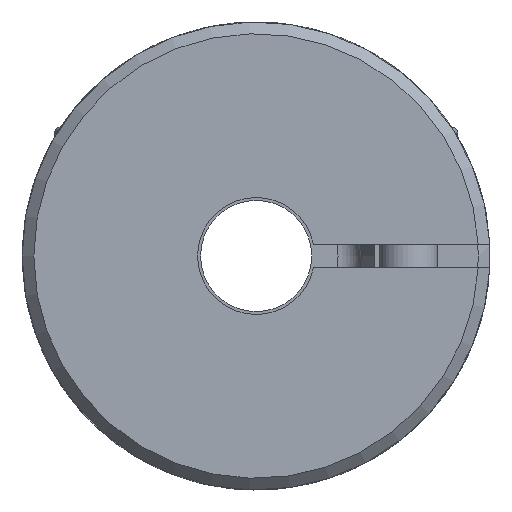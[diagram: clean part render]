
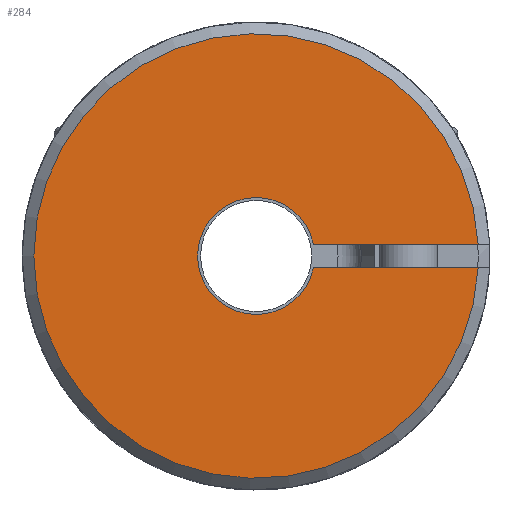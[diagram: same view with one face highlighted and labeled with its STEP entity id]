
A CAD part, left-side view. The second image highlights one B-rep face of the part: STEP entity #284.
In plain terms, the highlighted planar face has unit normal (-1, 0, 0).
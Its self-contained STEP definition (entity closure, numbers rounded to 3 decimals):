
#284 = ADVANCED_FACE( '', ( #740 ), #741, .T. );
#740 = FACE_OUTER_BOUND( '', #1419, .T. );
#741 = PLANE( '', #1420 );
#1419 = EDGE_LOOP( '', ( #2229, #2230, #2231, #2232 ) );
#1420 = AXIS2_PLACEMENT_3D( '', #2233, #2234, #2235 );
#2229 = ORIENTED_EDGE( '', *, *, #3913, .T. );
#2230 = ORIENTED_EDGE( '', *, *, #3914, .T. );
#2231 = ORIENTED_EDGE( '', *, *, #3915, .T. );
#2232 = ORIENTED_EDGE( '', *, *, #3916, .T. );
#2233 = CARTESIAN_POINT( '', ( 0., 3.05, 0. ) );
#2234 = DIRECTION( '', ( -1., 0., 0. ) );
#2235 = DIRECTION( '', ( 0., 0., 1. ) );
#3913 = EDGE_CURVE( '', #4709, #4710, #4711, .T. );
#3914 = EDGE_CURVE( '', #4710, #4712, #4713, .T. );
#3915 = EDGE_CURVE( '', #4712, #4714, #4715, .T. );
#3916 = EDGE_CURVE( '', #4714, #4709, #4716, .T. );
#4709 = VERTEX_POINT( '', #6092 );
#4710 = VERTEX_POINT( '', #6093 );
#4711 = LINE( '', #6094, #6095 );
#4712 = VERTEX_POINT( '', #6096 );
#4713 = CIRCLE( '', #6097, 5. );
#4714 = VERTEX_POINT( '', #6098 );
#4715 = LINE( '', #6099, #6100 );
#4716 = CIRCLE( '', #6101, 19. );
#6092 = CARTESIAN_POINT( '', ( 0., -18.974, -1. ) );
#6093 = CARTESIAN_POINT( '', ( 0., -4.899, -1. ) );
#6094 = CARTESIAN_POINT( '', ( 0., 3.05, -1. ) );
#6095 = VECTOR( '', #7654, 1000. );
#6096 = CARTESIAN_POINT( '', ( 0., -4.899, 1. ) );
#6097 = AXIS2_PLACEMENT_3D( '', #7655, #7656, #7657 );
#6098 = CARTESIAN_POINT( '', ( 0., -18.974, 1. ) );
#6099 = CARTESIAN_POINT( '', ( 0., 3.05, 1. ) );
#6100 = VECTOR( '', #7658, 1000. );
#6101 = AXIS2_PLACEMENT_3D( '', #7659, #7660, #7661 );
#7654 = DIRECTION( '', ( 0., 1., 0. ) );
#7655 = CARTESIAN_POINT( '', ( 0., 0., 0. ) );
#7656 = DIRECTION( '', ( 1., 0., 0. ) );
#7657 = DIRECTION( '', ( 0., -1., 0. ) );
#7658 = DIRECTION( '', ( 0., -1., 0. ) );
#7659 = CARTESIAN_POINT( '', ( 0., 0., 0. ) );
#7660 = DIRECTION( '', ( -1., 0., 0. ) );
#7661 = DIRECTION( '', ( 0., 1., 0. ) );
